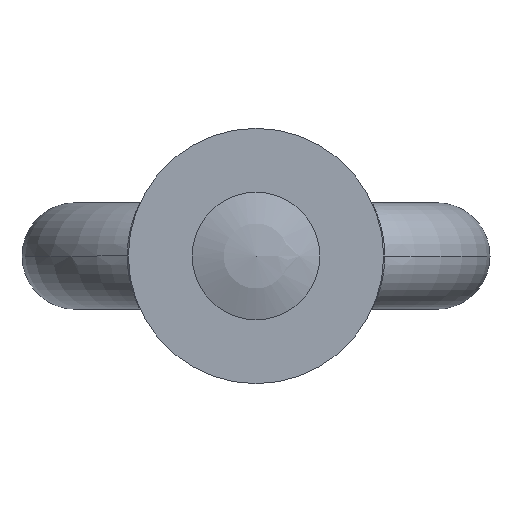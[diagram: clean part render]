
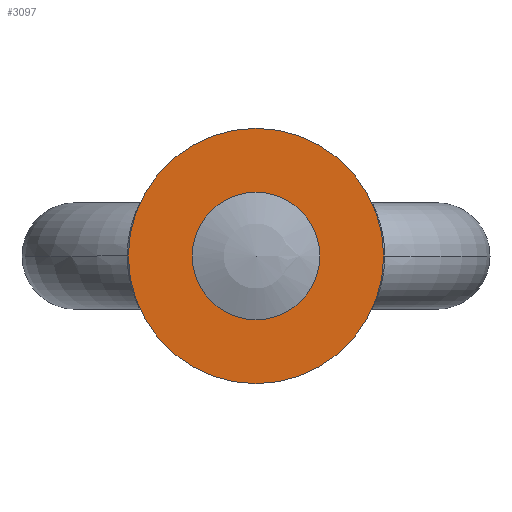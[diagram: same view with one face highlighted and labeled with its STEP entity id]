
A CAD part, front view. The second image highlights one B-rep face of the part: STEP entity #3097.
In plain terms, the highlighted planar face has unit normal (0, -1, 0).
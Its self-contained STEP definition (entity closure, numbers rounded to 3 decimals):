
#505 = ORIENTED_EDGE ( 'NONE', *, *, #3144, .F. ) ;
#995 = CARTESIAN_POINT ( 'NONE',  ( 0., -55., -30. ) ) ;
#1023 = CARTESIAN_POINT ( 'NONE',  ( 0., -55., 15. ) ) ;
#1055 = FACE_BOUND ( 'NONE', #3091, .T. ) ;
#1056 = FACE_OUTER_BOUND ( 'NONE', #3060, .T. ) ;
#1057 = PLANE ( 'NONE',  #1058 ) ;
#1058 = AXIS2_PLACEMENT_3D ( 'NONE', #1059, #1060, #1061 ) ;
#1059 = CARTESIAN_POINT ( 'NONE',  ( -30., -55., 0. ) ) ;
#1060 = DIRECTION ( 'NONE',  ( 0., -1., 0. ) ) ;
#1061 = DIRECTION ( 'NONE',  ( 0., 0., -1. ) ) ;
#2435 = CIRCLE ( 'NONE', #2436, 30. ) ;
#2436 = AXIS2_PLACEMENT_3D ( 'NONE', #2437, #2438, #2439 ) ;
#2437 = CARTESIAN_POINT ( 'NONE',  ( 0., -55., 0. ) ) ;
#2438 = DIRECTION ( 'NONE',  ( 0., 1., 0. ) ) ;
#2439 = DIRECTION ( 'NONE',  ( 0., 0., 1. ) ) ;
#2781 = VERTEX_POINT ( 'NONE', #995 ) ;
#2959 = ORIENTED_EDGE ( 'NONE', *, *, #3104, .F. ) ;
#3060 = EDGE_LOOP ( 'NONE', ( #2959, #505 ) ) ;
#3061 = VERTEX_POINT ( 'NONE', #3373 ) ;
#3064 = EDGE_CURVE ( 'NONE', #3095, #3131, #3578, .T. ) ;
#3074 = ORIENTED_EDGE ( 'NONE', *, *, #3064, .T. ) ;
#3081 = ORIENTED_EDGE ( 'NONE', *, *, #3134, .T. ) ;
#3091 = EDGE_LOOP ( 'NONE', ( #3081, #3074 ) ) ;
#3095 = VERTEX_POINT ( 'NONE', #1023 ) ;
#3097 = ADVANCED_FACE ( 'NONE', ( #1055, #1056 ), #1057, .T. ) ;
#3104 = EDGE_CURVE ( 'NONE', #2781, #3061, #3243, .T. ) ;
#3131 = VERTEX_POINT ( 'NONE', #3298 ) ;
#3134 = EDGE_CURVE ( 'NONE', #3131, #3095, #3568, .T. ) ;
#3144 = EDGE_CURVE ( 'NONE', #3061, #2781, #2435, .T. ) ;
#3243 = CIRCLE ( 'NONE', #3244, 30. ) ;
#3244 = AXIS2_PLACEMENT_3D ( 'NONE', #3245, #3246, #3247 ) ;
#3245 = CARTESIAN_POINT ( 'NONE',  ( 0., -55., 0. ) ) ;
#3246 = DIRECTION ( 'NONE',  ( 0., 1., 0. ) ) ;
#3247 = DIRECTION ( 'NONE',  ( 0., 0., 1. ) ) ;
#3298 = CARTESIAN_POINT ( 'NONE',  ( 0., -55., -15. ) ) ;
#3373 = CARTESIAN_POINT ( 'NONE',  ( 0., -55., 30. ) ) ;
#3568 = CIRCLE ( 'NONE', #3569, 15. ) ;
#3569 = AXIS2_PLACEMENT_3D ( 'NONE', #3570, #3571, #3572 ) ;
#3570 = CARTESIAN_POINT ( 'NONE',  ( 0., -55., 0. ) ) ;
#3571 = DIRECTION ( 'NONE',  ( 0., 1., 0. ) ) ;
#3572 = DIRECTION ( 'NONE',  ( 0., 0., -1. ) ) ;
#3578 = CIRCLE ( 'NONE', #3579, 15. ) ;
#3579 = AXIS2_PLACEMENT_3D ( 'NONE', #3580, #3581, #3582 ) ;
#3580 = CARTESIAN_POINT ( 'NONE',  ( 0., -55., 0. ) ) ;
#3581 = DIRECTION ( 'NONE',  ( 0., 1., 0. ) ) ;
#3582 = DIRECTION ( 'NONE',  ( 0., 0., -1. ) ) ;
